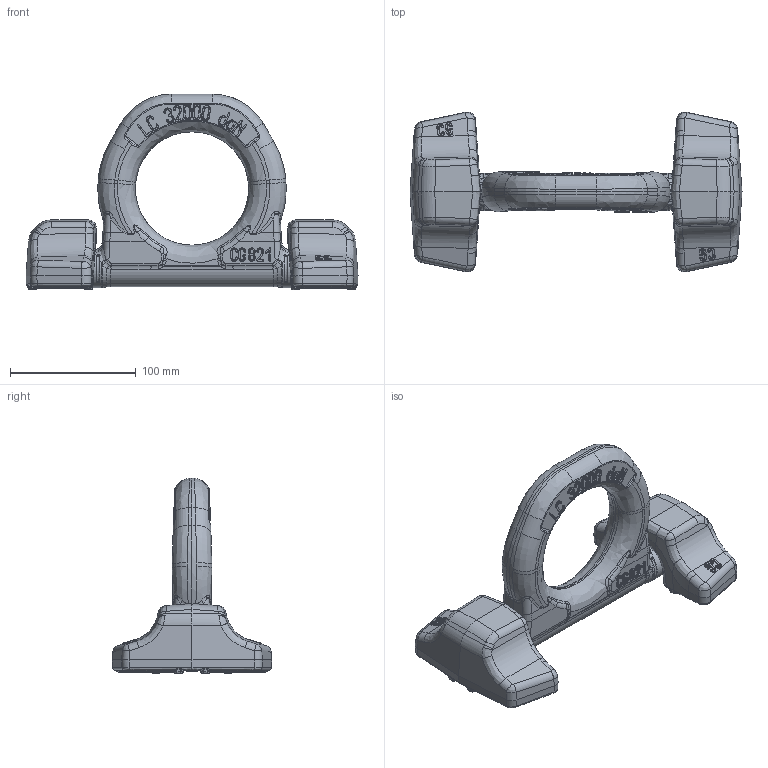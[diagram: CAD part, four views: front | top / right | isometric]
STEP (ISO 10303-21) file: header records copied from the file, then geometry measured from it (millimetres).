
FILE_DESCRIPTION(/* description */ (''),/* implementation_level */ '2;1');
FILE_NAME(/* name */ 'C821X32.stp',/* time_stamp */ '2011-12-02T15:53:18+01:00',/* author */ (''),/* organization */ (''),/* preprocessor_version */ 'ST-DEVELOPER v11',/* originating_system */ 'SIEMENS PLM Software NX 7.5',/* authorisation */ '');
FILE_SCHEMA (('CONFIG_CONTROL_DESIGN'));
Products named in the file (1): ugiiB87Ckfpw
Bounding box: 263.85 x 127.11 x 155.6 mm (x, y, z)
Volume: 780473.2 mm3; surface area: 99010.3 mm2
Topology: 3 solids, 3 shells, 2103 faces, 5040 edges, 2981 vertices
Faces by surface type: bspline 901, cylinder 676, plane 408, torus 98, sphere 8, cone 8, extrusion 4
Full cylindrical faces by diameter (mm): 30 x2
Entity records: 102498 total; most frequent: CARTESIAN_POINT 61333, ORIENTED_EDGE 10020, DIRECTION 7073, EDGE_CURVE 5010, VERTEX_POINT 2972, AXIS2_PLACEMENT_3D 2774, EDGE_LOOP 2160, ADVANCED_FACE 2101
